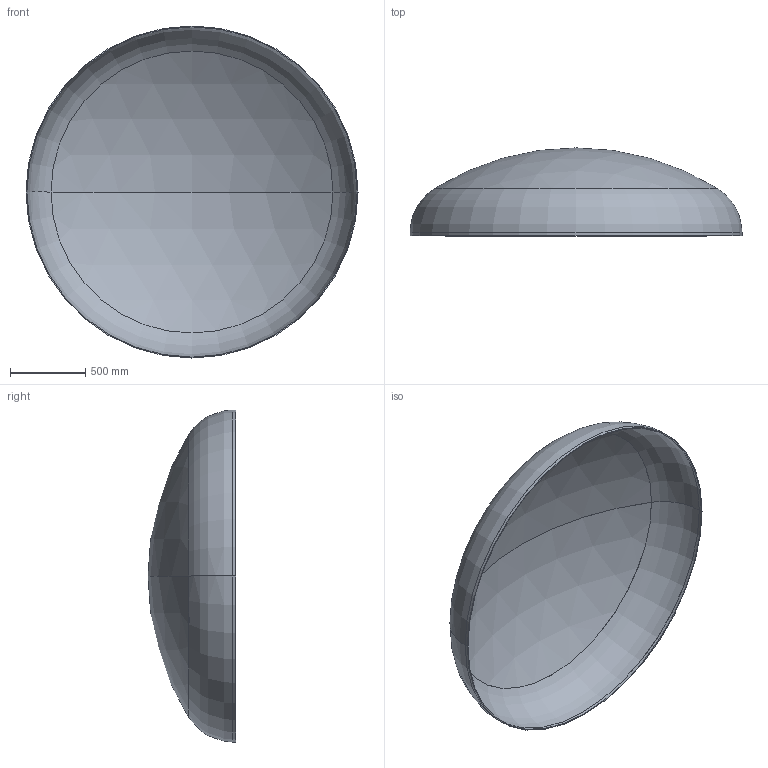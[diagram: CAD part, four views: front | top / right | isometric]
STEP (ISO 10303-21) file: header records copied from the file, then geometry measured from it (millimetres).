
FILE_DESCRIPTION (( 'STEP AP203' ), '1' );
FILE_NAME ('DIN 28013 Korbbogenform_-_Boden DIN 28013 - 2200 x 20 - I - s=6.step', '2016-07-01T14:16:22', ( '' ), ( '' ), 'SwSTEP 2.0', 'SolidWorks 2013', '' );
FILE_SCHEMA (( 'CONFIG_CONTROL_DESIGN' ));
Length unit declared in the file: millimetre
Products named in the file (1): DIN 28013 Korbbogenform_-_Boden DIN 28013 - 2200 x 20 - I - s=6
Bounding box: 2200 x 582.72 x 2200 mm (x, y, z)
Volume: 32326161.7 mm3; surface area: 10816814.2 mm2
Topology: 1 solids, 1 shells, 13 faces, 24 edges, 14 vertices
Faces by surface type: torus 4, cylinder 4, sphere 4, plane 1
Entity records: 407 total; most frequent: DIRECTION 72, CARTESIAN_POINT 52, ORIENTED_EDGE 48, AXIS2_PLACEMENT_3D 34, EDGE_CURVE 24, CIRCLE 20, VERTEX_POINT 14, EDGE_LOOP 14
